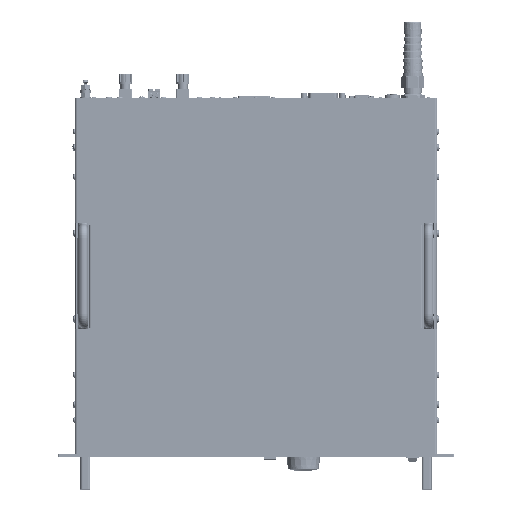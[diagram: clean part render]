
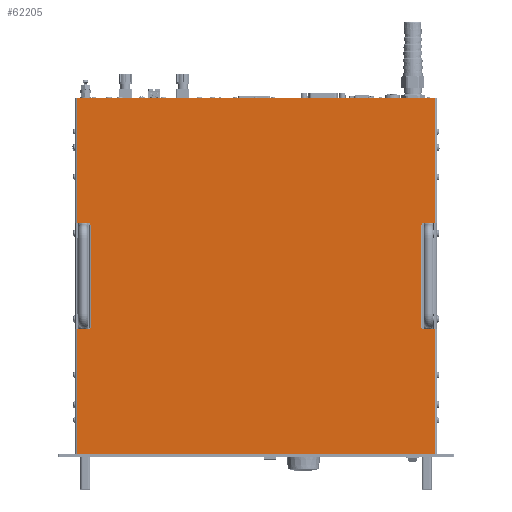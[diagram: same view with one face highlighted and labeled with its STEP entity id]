
A CAD part, top view. The second image highlights one B-rep face of the part: STEP entity #62205.
In plain terms, the highlighted planar face has unit normal (0, 0, 1).
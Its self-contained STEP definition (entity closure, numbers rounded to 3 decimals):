
#62205=ADVANCED_FACE('',(#128205),#128206,.F.);
#128205=FACE_OUTER_BOUND('',#230289,.T.);
#128206=PLANE('',#230290);
#230289=EDGE_LOOP('',(#405199,#405200,#405201,#405202,#405203,#405204,#405205,#405206,#405207,#405208,#405209,#405210,#405211,#405212,#405213,#405214,#405215,#405216,#405217,#405218));
#230290=AXIS2_PLACEMENT_3D('',#405219,#405220,#405221);
#405199=ORIENTED_EDGE('',*,*,#497775,.T.);
#405200=ORIENTED_EDGE('',*,*,#497795,.F.);
#405201=ORIENTED_EDGE('',*,*,#497796,.F.);
#405202=ORIENTED_EDGE('',*,*,#497439,.F.);
#405203=ORIENTED_EDGE('',*,*,#497761,.F.);
#405204=ORIENTED_EDGE('',*,*,#497424,.F.);
#405205=ORIENTED_EDGE('',*,*,#497750,.F.);
#405206=ORIENTED_EDGE('',*,*,#497797,.F.);
#405207=ORIENTED_EDGE('',*,*,#497793,.T.);
#405208=ORIENTED_EDGE('',*,*,#497788,.F.);
#405209=ORIENTED_EDGE('',*,*,#497785,.T.);
#405210=ORIENTED_EDGE('',*,*,#497798,.F.);
#405211=ORIENTED_EDGE('',*,*,#497726,.F.);
#405212=ORIENTED_EDGE('',*,*,#497414,.F.);
#405213=ORIENTED_EDGE('',*,*,#497715,.F.);
#405214=ORIENTED_EDGE('',*,*,#497434,.F.);
#405215=ORIENTED_EDGE('',*,*,#497799,.F.);
#405216=ORIENTED_EDGE('',*,*,#497800,.F.);
#405217=ORIENTED_EDGE('',*,*,#497772,.T.);
#405218=ORIENTED_EDGE('',*,*,#497780,.T.);
#405219=CARTESIAN_POINT('',(239.8,220.125,86.465));
#405220=DIRECTION('',(0.,0.,-1.0));
#405221=DIRECTION('',(1.0,0.,0.));
#497414=EDGE_CURVE('',#603616,#603618,#603619,.T.);
#497424=EDGE_CURVE('',#603634,#603636,#603637,.T.);
#497434=EDGE_CURVE('',#603652,#603654,#603655,.T.);
#497439=EDGE_CURVE('',#603661,#603663,#603664,.T.);
#497715=EDGE_CURVE('',#603654,#603616,#604094,.T.);
#497726=EDGE_CURVE('',#603618,#604109,#604110,.T.);
#497750=EDGE_CURVE('',#604142,#603634,#604144,.T.);
#497761=EDGE_CURVE('',#603636,#603661,#604159,.T.);
#497772=EDGE_CURVE('',#604170,#604173,#604175,.T.);
#497775=EDGE_CURVE('',#604180,#604177,#604181,.T.);
#497780=EDGE_CURVE('',#604173,#604180,#604186,.T.);
#497785=EDGE_CURVE('',#604192,#604190,#604193,.T.);
#497788=EDGE_CURVE('',#604192,#604196,#604197,.T.);
#497793=EDGE_CURVE('',#604202,#604196,#604204,.T.);
#497795=EDGE_CURVE('',#604206,#604177,#604207,.T.);
#497796=EDGE_CURVE('',#603663,#604206,#604208,.T.);
#497797=EDGE_CURVE('',#604202,#604142,#604209,.T.);
#497798=EDGE_CURVE('',#604109,#604190,#604210,.T.);
#497799=EDGE_CURVE('',#604211,#603652,#604212,.T.);
#497800=EDGE_CURVE('',#604170,#604211,#604213,.T.);
#603616=VERTEX_POINT('',#754864);
#603618=VERTEX_POINT('',#754866);
#603619=LINE('',#754867,#754868);
#603634=VERTEX_POINT('',#754886);
#603636=VERTEX_POINT('',#754888);
#603637=LINE('',#754889,#754890);
#603652=VERTEX_POINT('',#754908);
#603654=VERTEX_POINT('',#754910);
#603655=LINE('',#754911,#754912);
#603661=VERTEX_POINT('',#754919);
#603663=VERTEX_POINT('',#754921);
#603664=LINE('',#754922,#754923);
#604094=LINE('',#755474,#755475);
#604109=VERTEX_POINT('',#755495);
#604110=LINE('',#755496,#755497);
#604142=VERTEX_POINT('',#755543);
#604144=LINE('',#755546,#755547);
#604159=LINE('',#755567,#755568);
#604170=VERTEX_POINT('',#755583);
#604173=VERTEX_POINT('',#755587);
#604175=LINE('',#755589,#755590);
#604177=VERTEX_POINT('',#755592);
#604180=VERTEX_POINT('',#755596);
#604181=LINE('',#755597,#755598);
#604186=LINE('',#755603,#755604);
#604190=VERTEX_POINT('',#755609);
#604192=VERTEX_POINT('',#755612);
#604193=LINE('',#755613,#755614);
#604196=VERTEX_POINT('',#755617);
#604197=LINE('',#755618,#755619);
#604202=VERTEX_POINT('',#755624);
#604204=LINE('',#755627,#755628);
#604206=VERTEX_POINT('',#755630);
#604207=LINE('',#755631,#755632);
#604208=LINE('',#755633,#755634);
#604209=LINE('',#755635,#755636);
#604210=LINE('',#755637,#755638);
#604211=VERTEX_POINT('',#755639);
#604212=LINE('',#755640,#755641);
#604213=LINE('',#755642,#755643);
#754864=CARTESIAN_POINT('',(22.123,3.5,86.465));
#754866=CARTESIAN_POINT('',(22.123,155.5,86.465));
#754867=CARTESIAN_POINT('',(22.123,149.813,86.465));
#754868=VECTOR('',#855031,1.0);
#754886=CARTESIAN_POINT('',(22.123,284.75,86.465));
#754888=CARTESIAN_POINT('',(22.123,436.75,86.465));
#754889=CARTESIAN_POINT('',(22.123,290.438,86.465));
#754890=VECTOR('',#855047,1.0);
#754908=CARTESIAN_POINT('',(457.477,155.5,86.465));
#754910=CARTESIAN_POINT('',(457.477,3.5,86.465));
#754911=CARTESIAN_POINT('',(457.477,149.813,86.465));
#754912=VECTOR('',#855063,1.0);
#754919=CARTESIAN_POINT('',(457.477,436.75,86.465));
#754921=CARTESIAN_POINT('',(457.477,284.75,86.465));
#754922=CARTESIAN_POINT('',(457.477,290.438,86.465));
#754923=VECTOR('',#855071,1.0);
#755474=CARTESIAN_POINT('',(460.227,3.5,86.465));
#755475=VECTOR('',#855457,1.0);
#755495=CARTESIAN_POINT('',(37.373,155.5,86.465));
#755496=CARTESIAN_POINT('',(19.373,155.5,86.465));
#755497=VECTOR('',#855475,1.0);
#755543=CARTESIAN_POINT('',(37.373,284.75,86.465));
#755546=CARTESIAN_POINT('',(37.373,284.75,86.465));
#755547=VECTOR('',#855503,1.0);
#755567=CARTESIAN_POINT('',(19.373,436.75,86.465));
#755568=VECTOR('',#855521,1.0);
#755583=CARTESIAN_POINT('',(442.227,157.5,86.465));
#755587=CARTESIAN_POINT('',(440.477,157.5,86.465));
#755589=CARTESIAN_POINT('',(341.093,157.5,86.465));
#755590=VECTOR('',#855533,1.0);
#755592=CARTESIAN_POINT('',(442.227,282.75,86.465));
#755596=CARTESIAN_POINT('',(440.477,282.75,86.465));
#755597=CARTESIAN_POINT('',(341.093,282.75,86.465));
#755598=VECTOR('',#855535,1.0);
#755603=CARTESIAN_POINT('',(440.477,220.125,86.465));
#755604=VECTOR('',#855545,1.0);
#755609=CARTESIAN_POINT('',(37.373,157.5,86.465));
#755612=CARTESIAN_POINT('',(39.123,157.5,86.465));
#755613=CARTESIAN_POINT('',(138.507,157.5,86.465));
#755614=VECTOR('',#855548,1.0);
#755617=CARTESIAN_POINT('',(39.123,282.75,86.465));
#755618=CARTESIAN_POINT('',(39.123,220.125,86.465));
#755619=VECTOR('',#855552,1.0);
#755624=CARTESIAN_POINT('',(37.373,282.75,86.465));
#755627=CARTESIAN_POINT('',(138.507,282.75,86.465));
#755628=VECTOR('',#855560,1.0);
#755630=CARTESIAN_POINT('',(442.227,284.75,86.465));
#755631=CARTESIAN_POINT('',(442.227,284.75,86.465));
#755632=VECTOR('',#855561,1.0);
#755633=CARTESIAN_POINT('',(460.227,284.75,86.465));
#755634=VECTOR('',#855562,1.0);
#755635=CARTESIAN_POINT('',(37.373,282.75,86.465));
#755636=VECTOR('',#855563,1.0);
#755637=CARTESIAN_POINT('',(37.373,155.5,86.465));
#755638=VECTOR('',#855564,1.0);
#755639=CARTESIAN_POINT('',(442.227,155.5,86.465));
#755640=CARTESIAN_POINT('',(442.227,155.5,86.465));
#755641=VECTOR('',#855565,1.0);
#755642=CARTESIAN_POINT('',(442.227,157.5,86.465));
#755643=VECTOR('',#855566,1.0);
#855031=DIRECTION('',(0.0,1.0,0.));
#855047=DIRECTION('',(0.0,1.0,0.));
#855063=DIRECTION('',(0.0,-1.0,0.));
#855071=DIRECTION('',(0.0,-1.0,0.));
#855457=DIRECTION('',(-1.0,0.0,0.));
#855475=DIRECTION('',(1.0,0.0,0.0));
#855503=DIRECTION('',(-1.0,0.0,0.0));
#855521=DIRECTION('',(1.0,0.0,0.0));
#855533=DIRECTION('',(-1.0,0.0,0.0));
#855535=DIRECTION('',(1.0,0.0,0.0));
#855545=DIRECTION('',(0.0,1.0,0.));
#855548=DIRECTION('',(-1.0,0.0,0.0));
#855552=DIRECTION('',(0.0,1.0,0.));
#855560=DIRECTION('',(1.0,0.0,0.0));
#855561=DIRECTION('',(0.0,-1.0,0.));
#855562=DIRECTION('',(-1.0,0.0,0.0));
#855563=DIRECTION('',(0.0,1.0,0.));
#855564=DIRECTION('',(0.0,1.0,0.));
#855565=DIRECTION('',(1.0,0.0,0.0));
#855566=DIRECTION('',(0.0,-1.0,0.));
